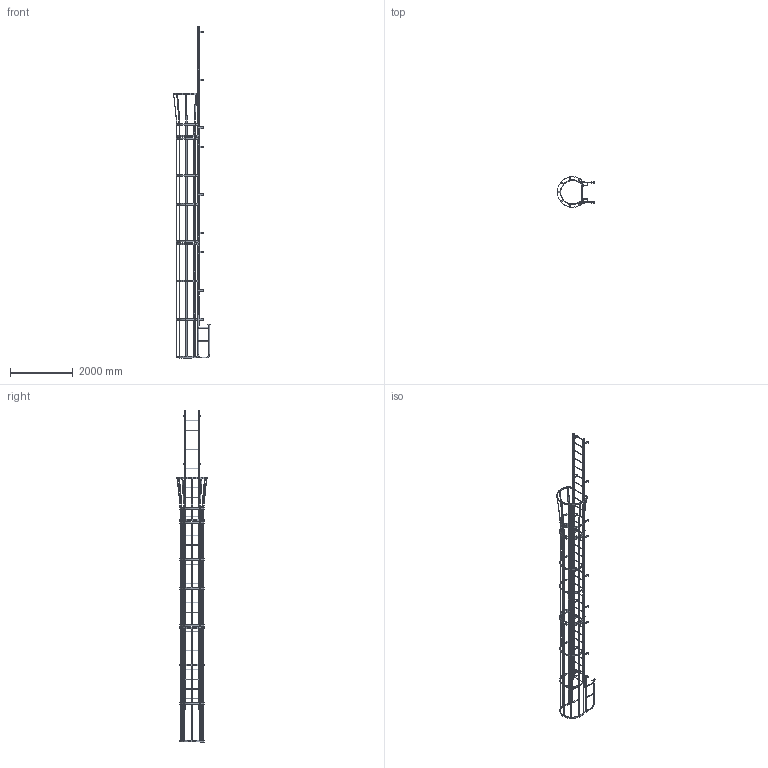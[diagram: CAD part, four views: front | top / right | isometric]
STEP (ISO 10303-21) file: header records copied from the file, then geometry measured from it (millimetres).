
FILE_DESCRIPTION(/* description */ (''),/* implementation_level */ '2;1');
FILE_NAME(/* name */ 'P:\MIKEL & KAREN\D0570196-18 F32WC SIMPLIFIED PART.stp',/* time_stamp */ '2018-07-03T08:23:32-04:00',/* author */ ('stephanie'),/* organization */ (''),/* preprocessor_version */ 'ST-DEVELOPER v16.1',/* originating_system */ 'Autodesk Inventor 2016',/* authorisation */ '');
FILE_SCHEMA (('AUTOMOTIVE_DESIGN { 1 0 10303 214 3 1 1 }'));
Length unit declared in the file: centimetre
Products named in the file (1): D0570196-18 F32WC SIMPLIFIED PART
Bounding box: 1195.62 x 977.88 x 10569.58 mm (x, y, z)
Volume: 35721849.4 mm3; surface area: 13540475.7 mm2
Topology: 49 solids, 51 shells, 1217 faces, 3597 edges, 2318 vertices
Faces by surface type: plane 782, cylinder 395, cone 32, torus 8
Full cylindrical faces by diameter (mm): 10.319 x4, 12.7 x4, 14.287 x22, 16.193 x2, 19.05 x34, 22.098 x10, 22.225 x64, 25.4 x10
Entity records: 41069 total; most frequent: CARTESIAN_POINT 7283, ORIENTED_EDGE 6838, DIRECTION 6675, EDGE_CURVE 3329, LINE 2267, VECTOR 2267, VERTEX_POINT 2216, AXIS2_PLACEMENT_3D 2204
